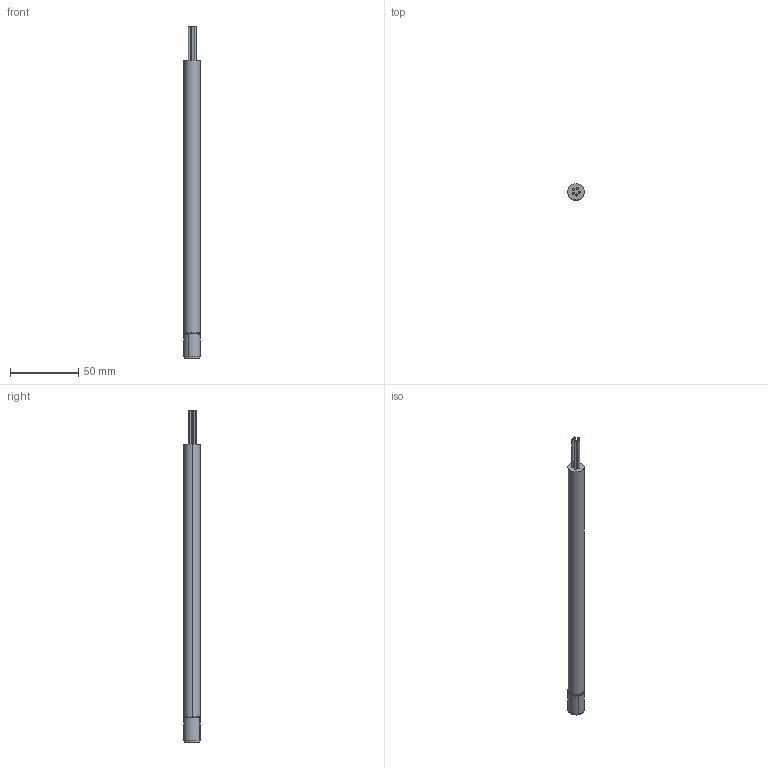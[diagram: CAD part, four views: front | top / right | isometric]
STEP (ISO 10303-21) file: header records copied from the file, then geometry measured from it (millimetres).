
FILE_DESCRIPTION (( 'STEP AP203' ), '1' );
FILE_NAME ('O2S-T6-SH.STEP', '2019-02-11T09:39:24', ( '' ), ( '' ), 'SwSTEP 2.0', 'SolidWorks 2018', '' );
FILE_SCHEMA (( 'CONFIG_CONTROL_DESIGN' ));
Length unit declared in the file: millimetre
Products named in the file (1): O2S-T6-SH
Bounding box: 12 x 12 x 243.44 mm (x, y, z)
Volume: 24913.8 mm3; surface area: 9088.4 mm2
Topology: 1 solids, 2 shells, 37 faces, 78 edges, 50 vertices
Faces by surface type: cylinder 20, plane 9, cone 6, torus 2
Entity records: 1095 total; most frequent: DIRECTION 206, CARTESIAN_POINT 166, ORIENTED_EDGE 156, AXIS2_PLACEMENT_3D 90, EDGE_CURVE 78, CIRCLE 52, VERTEX_POINT 50, EDGE_LOOP 44
